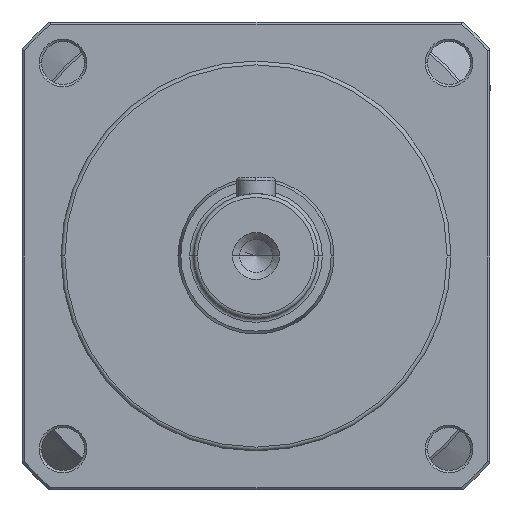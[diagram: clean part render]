
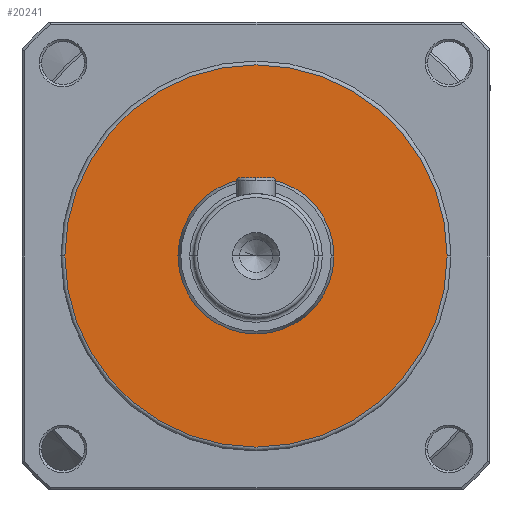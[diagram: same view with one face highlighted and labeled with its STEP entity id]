
A CAD part, left-side view. The second image highlights one B-rep face of the part: STEP entity #20241.
In plain terms, the highlighted planar face has unit normal (-1, 0, 0).
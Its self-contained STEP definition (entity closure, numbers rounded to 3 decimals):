
#863 = EDGE_LOOP ( 'NONE', ( #35900, #23615 ) ) ;
#987 = AXIS2_PLACEMENT_3D ( 'NONE', #17627, #36271, #54837 ) ;
#3600 = FACE_BOUND ( 'NONE', #863, .T. ) ;
#4058 = AXIS2_PLACEMENT_3D ( 'NONE', #50934, #9140, #46681 ) ;
#7767 = EDGE_CURVE ( 'NONE', #48740, #9420, #58767, .T. ) ;
#8491 = EDGE_CURVE ( 'NONE', #26954, #46851, #32513, .T. ) ;
#8910 = CARTESIAN_POINT ( 'NONE',  ( -80., 0.88, -0.972 ) ) ;
#9140 = DIRECTION ( 'NONE',  ( -1., 0., 0. ) ) ;
#9420 = VERTEX_POINT ( 'NONE', #11737 ) ;
#10027 = EDGE_LOOP ( 'NONE', ( #56573, #22461 ) ) ;
#11737 = CARTESIAN_POINT ( 'NONE',  ( -80., -23.62, -0.972 ) ) ;
#13184 = DIRECTION ( 'NONE',  ( 1., 0., 0. ) ) ;
#13974 = CARTESIAN_POINT ( 'NONE',  ( -80., 0.88, -0.972 ) ) ;
#15793 = CARTESIAN_POINT ( 'NONE',  ( -80., 25.38, -0.972 ) ) ;
#16205 = EDGE_CURVE ( 'NONE', #46851, #26954, #26144, .T. ) ;
#17627 = CARTESIAN_POINT ( 'NONE',  ( -80., 0.88, -0.972 ) ) ;
#20241 = ADVANCED_FACE ( 'NONE', ( #3600, #40834 ), #59412, .T. ) ;
#22461 = ORIENTED_EDGE ( 'NONE', *, *, #7767, .T. ) ;
#23211 = AXIS2_PLACEMENT_3D ( 'NONE', #8910, #13184, #27795 ) ;
#23615 = ORIENTED_EDGE ( 'NONE', *, *, #8491, .T. ) ;
#26144 = CIRCLE ( 'NONE', #23211, 10. ) ;
#26954 = VERTEX_POINT ( 'NONE', #36593 ) ;
#27795 = DIRECTION ( 'NONE',  ( 0., 1., 0. ) ) ;
#32513 = CIRCLE ( 'NONE', #51011, 10. ) ;
#32641 = CARTESIAN_POINT ( 'NONE',  ( -80., 0.88, -0.972 ) ) ;
#33481 = DIRECTION ( 'NONE',  ( -1., 0., 0. ) ) ;
#35900 = ORIENTED_EDGE ( 'NONE', *, *, #16205, .T. ) ;
#36271 = DIRECTION ( 'NONE',  ( -1., 0., 0. ) ) ;
#36593 = CARTESIAN_POINT ( 'NONE',  ( -80., -9.12, -0.972 ) ) ;
#37257 = DIRECTION ( 'NONE',  ( 1., 0., 0. ) ) ;
#39872 = EDGE_CURVE ( 'NONE', #9420, #48740, #40085, .T. ) ;
#40085 = CIRCLE ( 'NONE', #4058, 24.5 ) ;
#40834 = FACE_OUTER_BOUND ( 'NONE', #10027, .T. ) ;
#41769 = DIRECTION ( 'NONE',  ( 0., -1., 0. ) ) ;
#46116 = AXIS2_PLACEMENT_3D ( 'NONE', #13974, #33481, #41769 ) ;
#46681 = DIRECTION ( 'NONE',  ( 0., -1., 0. ) ) ;
#46851 = VERTEX_POINT ( 'NONE', #50701 ) ;
#48740 = VERTEX_POINT ( 'NONE', #15793 ) ;
#50701 = CARTESIAN_POINT ( 'NONE',  ( -80., 10.88, -0.972 ) ) ;
#50934 = CARTESIAN_POINT ( 'NONE',  ( -80., 0.88, -0.972 ) ) ;
#51011 = AXIS2_PLACEMENT_3D ( 'NONE', #32641, #37257, #51542 ) ;
#51542 = DIRECTION ( 'NONE',  ( 0., 1., 0. ) ) ;
#54837 = DIRECTION ( 'NONE',  ( 0., 0., 1. ) ) ;
#56573 = ORIENTED_EDGE ( 'NONE', *, *, #39872, .T. ) ;
#58767 = CIRCLE ( 'NONE', #46116, 24.5 ) ;
#59412 = PLANE ( 'NONE',  #987 ) ;
